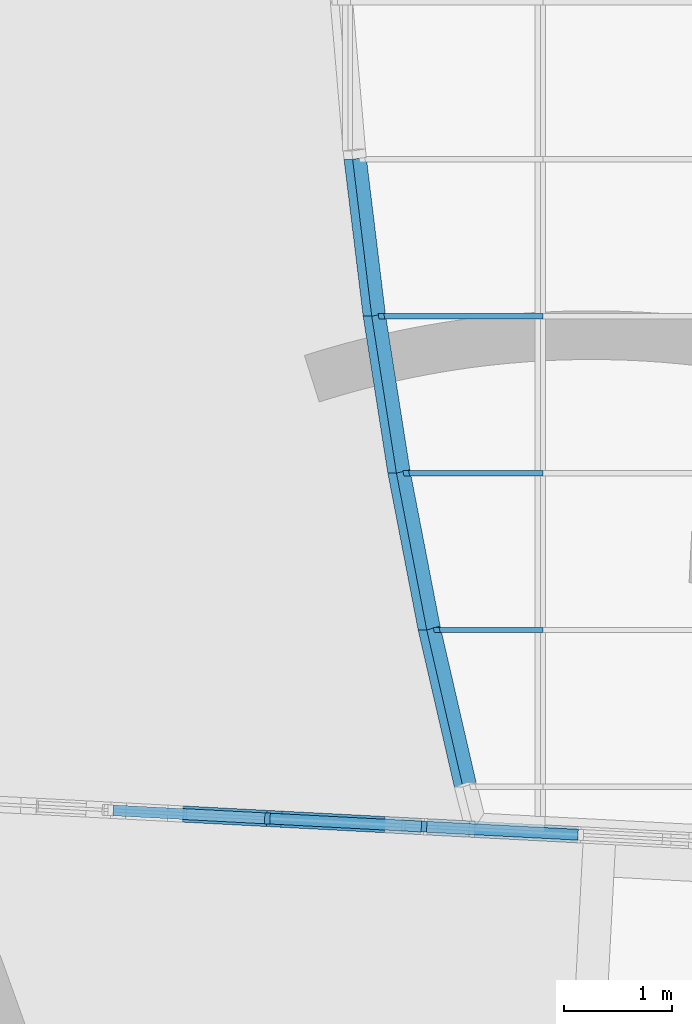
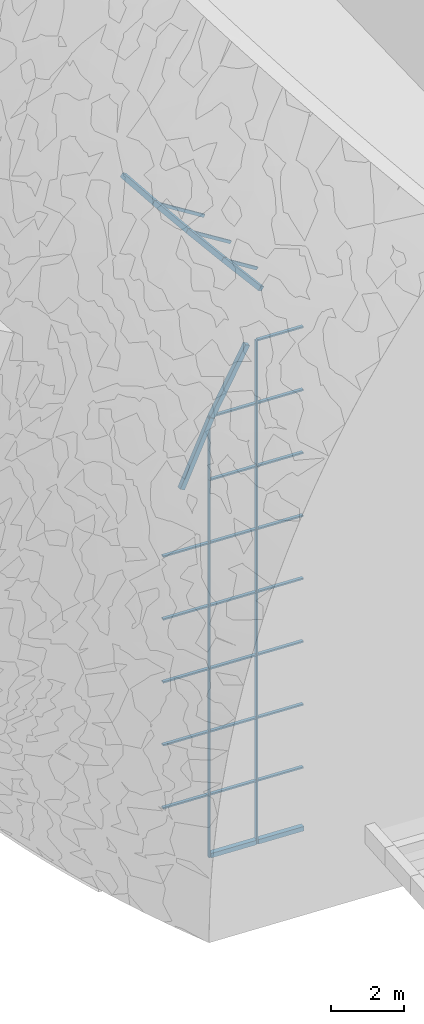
# One storey, part 2 of 82: 46 members, 1 element without a shape of its own.
"""IFC2X3 building model written with IfcOpenShell, lengths in millimetres."""

from ifc_helpers import new_model, entity, si_unit, converted_unit, derived_unit, direction, frame, frame_2d, origin, origin_2d_with_axis, place, context, subcontext, project, spatial, polyline, rectangle, extrude, clip, halfspace, bounded_halfspace, source, transform, mapped, material, type_object, type_shapes, element, aggregate, save


model = new_model("IFC2X3")

# Units and contexts
model_context = context("Model", 3, precision=0.01, world=origin(), true_north=direction((6.12303176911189e-17, 1.0)))
body_context = subcontext(model_context, "Body", "Model", "MODEL_VIEW")
ifc_project = project(units=[si_unit("LENGTHUNIT", "METRE", prefix="MILLI"), si_unit("AREAUNIT", "SQUARE_METRE"), si_unit("VOLUMEUNIT", "CUBIC_METRE"), converted_unit("PLANEANGLEUNIT", "DEGREE", entity("IfcRatioMeasure", 0.0174532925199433), si_unit("PLANEANGLEUNIT", "RADIAN"), dimensions=[0, 0, 0, 0, 0, 0, 0]), si_unit("MASSUNIT", "GRAM", prefix="KILO"), derived_unit("MASSDENSITYUNIT", [(si_unit("MASSUNIT", "GRAM", prefix="KILO"), 1), (si_unit("LENGTHUNIT", "METRE"), -3)]), si_unit("TIMEUNIT", "SECOND"), si_unit("FREQUENCYUNIT", "HERTZ"), si_unit("THERMODYNAMICTEMPERATUREUNIT", "DEGREE_CELSIUS"), derived_unit("THERMALTRANSMITTANCEUNIT", [(si_unit("MASSUNIT", "GRAM", prefix="KILO"), 1), (si_unit("THERMODYNAMICTEMPERATUREUNIT", "KELVIN"), -1), (si_unit("TIMEUNIT", "SECOND"), -3)]), derived_unit("VOLUMETRICFLOWRATEUNIT", [(si_unit("LENGTHUNIT", "METRE"), 3), (si_unit("TIMEUNIT", "SECOND"), -1)]), si_unit("ELECTRICCURRENTUNIT", "AMPERE"), si_unit("ELECTRICVOLTAGEUNIT", "VOLT"), si_unit("POWERUNIT", "WATT"), si_unit("FORCEUNIT", "NEWTON", prefix="KILO"), si_unit("ILLUMINANCEUNIT", "LUX"), si_unit("LUMINOUSFLUXUNIT", "LUMEN"), si_unit("LUMINOUSINTENSITYUNIT", "CANDELA"), derived_unit("USERDEFINED", [(si_unit("MASSUNIT", "GRAM", prefix="KILO"), -1), (si_unit("LENGTHUNIT", "METRE"), -2), (si_unit("TIMEUNIT", "SECOND"), 3), (si_unit("LUMINOUSFLUXUNIT", "LUMEN"), 1)]), derived_unit("LINEARVELOCITYUNIT", [(si_unit("LENGTHUNIT", "METRE"), 1), (si_unit("TIMEUNIT", "SECOND"), -1)]), si_unit("PRESSUREUNIT", "PASCAL"), derived_unit("USERDEFINED", [(si_unit("LENGTHUNIT", "METRE"), -2), (si_unit("MASSUNIT", "GRAM", prefix="KILO"), 1), (si_unit("TIMEUNIT", "SECOND"), -2)])], contexts=[model_context])

# Site, building, storey
site_placement = place(None, origin())
site = spatial("IfcSite", under=ifc_project, at=site_placement, Name="表面", CompositionType="ELEMENT")
building_placement = place(site_placement, origin())
building = spatial("IfcBuilding", under=site, at=building_placement, CompositionType="ELEMENT")
storey_placement = place(building_placement, origin())
storey = spatial("IfcBuildingStorey", under=building, at=storey_placement, Name="1F", CompositionType="ELEMENT", Elevation=0.0)

# Curtain wall, members
curtain_wall_type = type_object("IfcCurtainWallType", Name="幕墙系统:1450 x 2100mm", PredefinedType="NOTDEFINED")
curtain_wall_placement = place(storey_placement, origin())
curtain_wall = element("IfcCurtainWall", 1, at=curtain_wall_placement, inside=storey, type_object=curtain_wall_type, Name="幕墙系统:1450 x 2100mm", ObjectType="幕墙系统:1450 x 2100mm")
ifc_material_1 = material(Name="金属 - 铝")
member_type_1 = type_object("IfcMemberType", Name="50 x 100mm", PredefinedType="MEMBER")
shared_shape_1 = source(origin(), body_context, "Body", "SweptSolid", [
    extrude(rectangle(XDim=100.0, YDim=50.0, at=origin_2d_with_axis()), frame((0.0, 0.0, -1400.0), z_axis=(0.0, 0.0, 1.0), x_axis=(0.0, -1.0, 0.0)), (0.0, 0.0, 1.0), 1400.0),
])
type_shapes(member_type_1, [shared_shape_1])
member_1_placement = place(storey_placement, frame((-28473.6559453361, -28330.8847029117, 2100.0), z_axis=(0.998629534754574, -0.0523359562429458, 0.0), x_axis=(0.0, 0.0, 1.0)))
member_1 = element("IfcMember", 2, at=member_1_placement, type_object=member_type_1, material=ifc_material_1, Name="矩形竖梃:50 x 100mm", ObjectType="50 x 100mm", context=body_context, shape_type="MappedRepresentation", body=[
    mapped(shared_shape_1, transform((0.0, 0.0, 0.0), scale=1.0)),
])
member_2_placement = place(storey_placement, frame((-29921.6687707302, -28254.9975663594, 2100.0), z_axis=(0.998629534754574, -0.0523359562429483, 0.0), x_axis=(0.0, 0.0, 1.0)))
member_2 = element("IfcMember", 3, at=member_2_placement, type_object=member_type_1, material=ifc_material_1, Name="矩形竖梃:50 x 100mm", ObjectType="50 x 100mm", context=body_context, shape_type="MappedRepresentation", body=[
    mapped(shared_shape_1, transform((0.0, 0.0, 0.0), scale=1.0)),
])
member_3_placement = place(storey_placement, frame((-31369.6815961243, -28179.1104298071, 2100.0), z_axis=(0.998629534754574, -0.0523359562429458, 0.0), x_axis=(0.0, 0.0, 1.0)))
member_3 = element("IfcMember", 4, at=member_3_placement, type_object=member_type_1, material=ifc_material_1, Name="矩形竖梃:50 x 100mm", ObjectType="50 x 100mm", context=body_context, shape_type="MappedRepresentation", body=[
    mapped(shared_shape_1, transform((0.0, 0.0, 0.0), scale=1.0)),
])
placement_1 = place(building_placement, frame((0.0, 0.0, 3000.0)))
member_4_placement = place(placement_1, frame((-28473.6559453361, -28330.8847029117, 1200.0), z_axis=(0.998629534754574, -0.0523359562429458, 0.0), x_axis=(0.0, 0.0, 1.0)))
member_4 = element("IfcMember", 5, at=member_4_placement, type_object=member_type_1, material=ifc_material_1, Name="矩形竖梃:50 x 100mm", ObjectType="50 x 100mm", context=body_context, shape_type="MappedRepresentation", body=[
    mapped(shared_shape_1, transform((0.0, 0.0, 0.0), scale=1.0)),
])
member_5_placement = place(placement_1, frame((-29921.6687707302, -28254.9975663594, 1200.0), z_axis=(0.998629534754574, -0.0523359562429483, 0.0), x_axis=(0.0, 0.0, 1.0)))
member_5 = element("IfcMember", 6, at=member_5_placement, type_object=member_type_1, material=ifc_material_1, Name="矩形竖梃:50 x 100mm", ObjectType="50 x 100mm", context=body_context, shape_type="MappedRepresentation", body=[
    mapped(shared_shape_1, transform((0.0, 0.0, 0.0), scale=1.0)),
])
member_6_placement = place(placement_1, frame((-31369.6815961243, -28179.1104298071, 1200.0), z_axis=(0.998629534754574, -0.052335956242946, 0.0), x_axis=(0.0, 0.0, 1.0)))
member_6 = element("IfcMember", 7, at=member_6_placement, type_object=member_type_1, material=ifc_material_1, Name="矩形竖梃:50 x 100mm", ObjectType="50 x 100mm", context=body_context, shape_type="MappedRepresentation", body=[
    mapped(shared_shape_1, transform((0.0, 0.0, 0.0), scale=1.0)),
])
placement_2 = place(building_placement, frame((0.0, 0.0, 6000.0)))
member_7_placement = place(placement_2, frame((-28473.6559453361, -28330.8847029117, 300.0), z_axis=(0.998629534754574, -0.0523359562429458, 0.0), x_axis=(0.0, 0.0, 1.0)))
member_7 = element("IfcMember", 8, at=member_7_placement, type_object=member_type_1, material=ifc_material_1, Name="矩形竖梃:50 x 100mm", ObjectType="50 x 100mm", context=body_context, shape_type="MappedRepresentation", body=[
    mapped(shared_shape_1, transform((0.0, 0.0, 0.0), scale=1.0)),
])
member_8_placement = place(placement_2, frame((-29921.6687707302, -28254.9975663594, 300.0), z_axis=(0.998629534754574, -0.0523359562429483, 0.0), x_axis=(0.0, 0.0, 1.0)))
member_8 = element("IfcMember", 9, at=member_8_placement, type_object=member_type_1, material=ifc_material_1, Name="矩形竖梃:50 x 100mm", ObjectType="50 x 100mm", context=body_context, shape_type="MappedRepresentation", body=[
    mapped(shared_shape_1, transform((0.0, 0.0, 0.0), scale=1.0)),
])
member_9_placement = place(placement_2, frame((-31369.6815961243, -28179.1104298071, 300.0), z_axis=(0.998629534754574, -0.052335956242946, 0.0), x_axis=(0.0, 0.0, 1.0)))
member_9 = element("IfcMember", 10, at=member_9_placement, type_object=member_type_1, material=ifc_material_1, Name="矩形竖梃:50 x 100mm", ObjectType="50 x 100mm", context=body_context, shape_type="MappedRepresentation", body=[
    mapped(shared_shape_1, transform((0.0, 0.0, 0.0), scale=1.0)),
])
member_10_placement = place(placement_2, frame((-28473.6559453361, -28330.8847029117, 2400.0), z_axis=(0.998629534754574, -0.0523359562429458, 0.0), x_axis=(0.0, 0.0, 1.0)))
member_10 = element("IfcMember", 11, at=member_10_placement, type_object=member_type_1, material=ifc_material_1, Name="矩形竖梃:50 x 100mm", ObjectType="50 x 100mm", context=body_context, shape_type="MappedRepresentation", body=[
    mapped(shared_shape_1, transform((0.0, 0.0, 0.0), scale=1.0)),
])
member_11_placement = place(placement_2, frame((-29921.6687707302, -28254.9975663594, 2400.0), z_axis=(0.998629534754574, -0.0523359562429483, 0.0), x_axis=(0.0, 0.0, 1.0)))
member_11 = element("IfcMember", 12, at=member_11_placement, type_object=member_type_1, material=ifc_material_1, Name="矩形竖梃:50 x 100mm", ObjectType="50 x 100mm", context=body_context, shape_type="MappedRepresentation", body=[
    mapped(shared_shape_1, transform((0.0, 0.0, 0.0), scale=1.0)),
])
member_12_placement = place(placement_2, frame((-31369.6815961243, -28179.1104298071, 2400.0), z_axis=(0.998629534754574, -0.052335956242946, 0.0), x_axis=(0.0, 0.0, 1.0)))
member_12 = element("IfcMember", 13, at=member_12_placement, type_object=member_type_1, material=ifc_material_1, Name="矩形竖梃:50 x 100mm", ObjectType="50 x 100mm", context=body_context, shape_type="MappedRepresentation", body=[
    mapped(shared_shape_1, transform((0.0, 0.0, 0.0), scale=1.0)),
])
placement_3 = place(building_placement, frame((0.0, 0.0, 9000.0)))
member_13_placement = place(placement_3, frame((-28473.6559453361, -28330.8847029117, 1500.0), z_axis=(0.998629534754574, -0.0523359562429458, 0.0), x_axis=(0.0, 0.0, 1.0)))
member_13 = element("IfcMember", 14, at=member_13_placement, type_object=member_type_1, material=ifc_material_1, Name="矩形竖梃:50 x 100mm", ObjectType="50 x 100mm", context=body_context, shape_type="MappedRepresentation", body=[
    mapped(shared_shape_1, transform((0.0, 0.0, 0.0), scale=1.0)),
])
member_14_placement = place(placement_3, frame((-29921.6687707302, -28254.9975663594, 1500.0), z_axis=(0.998629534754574, -0.0523359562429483, 0.0), x_axis=(0.0, 0.0, 1.0)))
member_14 = element("IfcMember", 15, at=member_14_placement, type_object=member_type_1, material=ifc_material_1, Name="矩形竖梃:50 x 100mm", ObjectType="50 x 100mm", context=body_context, shape_type="MappedRepresentation", body=[
    mapped(shared_shape_1, transform((0.0, 0.0, 0.0), scale=1.0)),
])
member_15_placement = place(placement_3, frame((-31369.6815961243, -28179.1104298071, 1500.0), z_axis=(0.998629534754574, -0.052335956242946, 0.0), x_axis=(0.0, 0.0, 1.0)))
member_15 = element("IfcMember", 16, at=member_15_placement, type_object=member_type_1, material=ifc_material_1, Name="矩形竖梃:50 x 100mm", ObjectType="50 x 100mm", context=body_context, shape_type="MappedRepresentation", body=[
    mapped(shared_shape_1, transform((0.0, 0.0, 0.0), scale=1.0)),
])
member_16_placement = place(placement_3, frame((-28473.6559453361, -28330.8847029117, 3600.0), z_axis=(0.998629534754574, -0.0523359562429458, 0.0), x_axis=(0.0, 0.0, 1.0)))
member_16 = element("IfcMember", 17, at=member_16_placement, type_object=member_type_1, material=ifc_material_1, Name="矩形竖梃:50 x 100mm", ObjectType="50 x 100mm", context=body_context, shape_type="MappedRepresentation", body=[
    mapped(shared_shape_1, transform((0.0, 0.0, 0.0), scale=1.0)),
])
member_17_placement = place(placement_3, frame((-29921.6687707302, -28254.9975663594, 3600.0), z_axis=(0.998629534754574, -0.0523359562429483, 0.0), x_axis=(0.0, 0.0, 1.0)))
member_17 = element("IfcMember", 18, at=member_17_placement, type_object=member_type_1, material=ifc_material_1, Name="矩形竖梃:50 x 100mm", ObjectType="50 x 100mm", context=body_context, shape_type="MappedRepresentation", body=[
    mapped(shared_shape_1, transform((0.0, 0.0, 0.0), scale=1.0)),
])
member_18_placement = place(placement_3, frame((-28473.6559453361, -28330.8847029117, 5700.0), z_axis=(0.998629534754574, -0.0523359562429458, 0.0), x_axis=(0.0, 0.0, 1.0)))
member_18 = element("IfcMember", 19, at=member_18_placement, type_object=member_type_1, material=ifc_material_1, Name="矩形竖梃:50 x 100mm", ObjectType="50 x 100mm", context=body_context, shape_type="MappedRepresentation", body=[
    mapped(shared_shape_1, transform((0.0, 0.0, 0.0), scale=1.0)),
])
member_19_placement = place(placement_3, frame((-29921.6687707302, -28254.9975663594, 5700.0), z_axis=(0.998629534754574, -0.0523359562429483, 0.0), x_axis=(0.0, 0.0, 1.0)))
member_19 = element("IfcMember", 20, at=member_19_placement, type_object=member_type_1, material=ifc_material_1, Name="矩形竖梃:50 x 100mm", ObjectType="50 x 100mm", context=body_context, shape_type="MappedRepresentation", body=[
    mapped(shared_shape_1, transform((0.0, 0.0, 0.0), scale=1.0)),
])
member_20_placement = place(placement_3, frame((-28473.6559453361, -28330.8847029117, 7800.0), z_axis=(0.998629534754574, -0.0523359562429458, 0.0), x_axis=(0.0, 0.0, 1.0)))
member_20 = element("IfcMember", 21, at=member_20_placement, type_object=member_type_1, material=ifc_material_1, Name="矩形竖梃:50 x 100mm", ObjectType="50 x 100mm", context=body_context, shape_type="MappedRepresentation", body=[
    mapped(shared_shape_1, transform((0.0, 0.0, 0.0), scale=1.0)),
])
member_type_2 = type_object("IfcMemberType", Name="50 x 100mm", PredefinedType="MEMBER")
shared_shape_2 = source(origin(), body_context, "Body", "SweptSolid", [
    extrude(rectangle(XDim=100.0, YDim=50.0, at=origin_2d_with_axis()), frame((0.0, 0.0, -2100.0), z_axis=(0.0, 0.0, 1.0), x_axis=(0.0, -1.0, 0.0)), (0.0, 0.0, 1.0), 2100.0),
])
type_shapes(member_type_2, [shared_shape_2])
member_21_placement = place(storey_placement, frame((-29896.7030323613, -28256.3059652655, 2100.0), z_axis=(0.0, 0.0, 1.0), x_axis=(-0.998629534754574, 0.0523359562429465, 0.0)))
member_21 = element("IfcMember", 22, at=member_21_placement, type_object=member_type_2, material=ifc_material_1, Name="矩形竖梃:50 x 100mm", ObjectType="50 x 100mm", context=body_context, shape_type="MappedRepresentation", body=[
    mapped(shared_shape_2, transform((0.0, 0.0, 0.0), scale=1.0)),
])
member_22_placement = place(storey_placement, frame((-31344.7158577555, -28180.4188287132, 2100.0), z_axis=(0.0, 0.0, 1.0), x_axis=(-0.998629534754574, 0.0523359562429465, 0.0)))
member_22 = element("IfcMember", 23, at=member_22_placement, type_object=member_type_2, material=ifc_material_1, Name="矩形竖梃:50 x 100mm", ObjectType="50 x 100mm", context=body_context, shape_type="MappedRepresentation", body=[
    mapped(shared_shape_2, transform((0.0, 0.0, 0.0), scale=1.0)),
])
member_type_3 = type_object("IfcMemberType", Name="50 x 100mm", PredefinedType="MEMBER")
shared_shape_3 = source(origin(), body_context, "Body", "SweptSolid", [
    extrude(rectangle(XDim=100.0, YDim=50.0, at=origin_2d_with_axis()), frame((0.0, 0.0, -2100.0), z_axis=(0.0, 0.0, 1.0), x_axis=(0.0, -1.0, 0.0)), (0.0, 0.0, 1.0), 2100.0),
])
type_shapes(member_type_3, [shared_shape_3])
member_23_placement = place(storey_placement, frame((-29896.7030323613, -28256.3059652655, 4200.0), z_axis=(0.0, 0.0, 1.0), x_axis=(-0.998629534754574, 0.0523359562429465, 0.0)))
member_23 = element("IfcMember", 24, at=member_23_placement, type_object=member_type_3, material=ifc_material_1, Name="矩形竖梃:50 x 100mm", ObjectType="50 x 100mm", context=body_context, shape_type="MappedRepresentation", body=[
    mapped(shared_shape_3, transform((0.0, 0.0, 0.0), scale=1.0)),
])
member_24_placement = place(storey_placement, frame((-31344.7158577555, -28180.4188287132, 4200.0), z_axis=(0.0, 0.0, 1.0), x_axis=(-0.998629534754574, 0.0523359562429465, 0.0)))
member_24 = element("IfcMember", 25, at=member_24_placement, type_object=member_type_3, material=ifc_material_1, Name="矩形竖梃:50 x 100mm", ObjectType="50 x 100mm", context=body_context, shape_type="MappedRepresentation", body=[
    mapped(shared_shape_3, transform((0.0, 0.0, 0.0), scale=1.0)),
])
member_25_placement = place(placement_1, frame((-29896.7030323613, -28256.3059652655, 3300.0), z_axis=(0.0, 0.0, 1.0), x_axis=(-0.998629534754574, 0.0523359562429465, 0.0)))
member_25 = element("IfcMember", 26, at=member_25_placement, type_object=member_type_3, material=ifc_material_1, Name="矩形竖梃:50 x 100mm", ObjectType="50 x 100mm", context=body_context, shape_type="MappedRepresentation", body=[
    mapped(shared_shape_3, transform((0.0, 0.0, 0.0), scale=1.0)),
])
member_26_placement = place(placement_1, frame((-31344.7158577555, -28180.4188287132, 3300.0), z_axis=(0.0, 0.0, 1.0), x_axis=(-0.998629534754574, 0.0523359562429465, 0.0)))
member_26 = element("IfcMember", 27, at=member_26_placement, type_object=member_type_3, material=ifc_material_1, Name="矩形竖梃:50 x 100mm", ObjectType="50 x 100mm", context=body_context, shape_type="MappedRepresentation", body=[
    mapped(shared_shape_3, transform((0.0, 0.0, 0.0), scale=1.0)),
])
member_27_placement = place(placement_2, frame((-29896.7030323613, -28256.3059652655, 2400.0), z_axis=(0.0, 0.0, 1.0), x_axis=(-0.998629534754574, 0.0523359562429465, 0.0)))
member_27 = element("IfcMember", 28, at=member_27_placement, type_object=member_type_3, material=ifc_material_1, Name="矩形竖梃:50 x 100mm", ObjectType="50 x 100mm", context=body_context, shape_type="MappedRepresentation", body=[
    mapped(shared_shape_3, transform((0.0, 0.0, 0.0), scale=1.0)),
])
member_28_placement = place(placement_2, frame((-31344.7158577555, -28180.4188287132, 2400.0), z_axis=(0.0, 0.0, 1.0), x_axis=(-0.998629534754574, 0.0523359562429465, 0.0)))
member_28 = element("IfcMember", 29, at=member_28_placement, type_object=member_type_3, material=ifc_material_1, Name="矩形竖梃:50 x 100mm", ObjectType="50 x 100mm", context=body_context, shape_type="MappedRepresentation", body=[
    mapped(shared_shape_3, transform((0.0, 0.0, 0.0), scale=1.0)),
])
member_29_placement = place(placement_2, frame((-29896.7030323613, -28256.3059652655, 4500.0), z_axis=(0.0, 0.0, 1.0), x_axis=(-0.998629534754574, 0.0523359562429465, 0.0)))
member_29 = element("IfcMember", 30, at=member_29_placement, type_object=member_type_3, material=ifc_material_1, Name="矩形竖梃:50 x 100mm", ObjectType="50 x 100mm", context=body_context, shape_type="MappedRepresentation", body=[
    mapped(shared_shape_3, transform((0.0, 0.0, 0.0), scale=1.0)),
])
member_30_placement = place(placement_2, frame((-31344.7158577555, -28180.4188287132, 4500.0), z_axis=(0.0, 0.0, 1.0), x_axis=(-0.998629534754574, 0.0523359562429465, 0.0)))
member_30 = element("IfcMember", 31, at=member_30_placement, type_object=member_type_3, material=ifc_material_1, Name="矩形竖梃:50 x 100mm", ObjectType="50 x 100mm", context=body_context, shape_type="MappedRepresentation", body=[
    mapped(shared_shape_3, transform((0.0, 0.0, 0.0), scale=1.0)),
])
member_31_placement = place(placement_3, frame((-29896.7030323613, -28256.3059652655, 3600.0), z_axis=(0.0, 0.0, 1.0), x_axis=(-0.998629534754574, 0.0523359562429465, 0.0)))
member_31 = element("IfcMember", 32, at=member_31_placement, type_object=member_type_3, material=ifc_material_1, Name="矩形竖梃:50 x 100mm", ObjectType="50 x 100mm", context=body_context, shape_type="MappedRepresentation", body=[
    mapped(shared_shape_3, transform((0.0, 0.0, 0.0), scale=1.0)),
])
member_32_placement = place(placement_3, frame((-31344.7158577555, -28180.4188287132, 3600.0), z_axis=(0.0, 0.0, 1.0), x_axis=(-0.998629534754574, 0.0523359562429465, 0.0)))
member_32 = element("IfcMember", 33, at=member_32_placement, type_object=member_type_3, material=ifc_material_1, Name="矩形竖梃:50 x 100mm", ObjectType="50 x 100mm", context=body_context, shape_type="MappedRepresentation", body=[
    mapped(shared_shape_3, transform((0.0, 0.0, 0.0), scale=1.0)),
])
member_33_placement = place(placement_3, frame((-29896.7030323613, -28256.3059652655, 5700.0), z_axis=(0.0, 0.0, 1.0), x_axis=(-0.998629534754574, 0.0523359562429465, 0.0)))
member_33 = element("IfcMember", 34, at=member_33_placement, type_object=member_type_3, material=ifc_material_1, Name="矩形竖梃:50 x 100mm", ObjectType="50 x 100mm", context=body_context, shape_type="MappedRepresentation", body=[
    mapped(shared_shape_3, transform((0.0, 0.0, 0.0), scale=1.0)),
])
member_34_placement = place(placement_3, frame((-29896.7030323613, -28256.3059652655, 7800.0), z_axis=(0.0, 0.0, 1.0), x_axis=(-0.998629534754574, 0.0523359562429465, 0.0)))
member_34 = element("IfcMember", 35, at=member_34_placement, type_object=member_type_3, material=ifc_material_1, Name="矩形竖梃:50 x 100mm", ObjectType="50 x 100mm", context=body_context, shape_type="MappedRepresentation", body=[
    mapped(shared_shape_3, transform((0.0, 0.0, 0.0), scale=1.0)),
])
ifc_material_2 = material(Name="木质 - 木材")
member_type_4 = type_object("IfcMemberType", Name="200 x 150mm", PredefinedType="MEMBER")
shared_shape_4 = source(origin(), body_context, "Body", "SweptSolid", [
    extrude(rectangle(XDim=150.0, YDim=150.0, at=origin_2d_with_axis()), frame((-75.0, 0.0, -1400.0), z_axis=(0.0, 0.0, 1.0), x_axis=(0.0, -1.0, 0.0)), (0.0, 0.0, 1.0), 1400.0),
])
type_shapes(member_type_4, [shared_shape_4])
member_35_placement = place(storey_placement, frame((-29871.7372939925, -28257.6143641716, 0.0), z_axis=(-0.998629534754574, 0.0523359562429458, 0.0), x_axis=(0.0, 0.0, -1.0)))
member_35 = element("IfcMember", 36, at=member_35_placement, type_object=member_type_4, material=ifc_material_2, Name="矩形竖梃:200 x 150mm", ObjectType="200 x 150mm", context=body_context, shape_type="MappedRepresentation", body=[
    mapped(shared_shape_4, transform((0.0, 0.0, 0.0), scale=1.0)),
])
member_36_placement = place(storey_placement, frame((-31319.7501193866, -28181.7272276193, 0.0), z_axis=(-0.998629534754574, 0.0523359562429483, 0.0), x_axis=(0.0, 0.0, -1.0)))
member_36 = element("IfcMember", 37, at=member_36_placement, type_object=member_type_4, material=ifc_material_2, Name="矩形竖梃:200 x 150mm", ObjectType="200 x 150mm", context=body_context, shape_type="MappedRepresentation", body=[
    mapped(shared_shape_4, transform((0.0, 0.0, 0.0), scale=1.0)),
])
member_type_5 = type_object("IfcMemberType", Name="200 x 150mm", PredefinedType="MEMBER")
shared_shape_5 = source(origin(), body_context, "Body", "Clipping", [
    clip(clip(extrude(rectangle(XDim=150.0, YDim=150.0, at=frame_2d((-7.105427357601e-15, 0.0), x_axis=(1.0, 0.0))), frame((-75.0, 0.0, -1464.90108791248), z_axis=(0.0, 0.0, 1.0), x_axis=(0.0, -1.0, 0.0)), (0.0, 0.0, 1.0), 1464.90108791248), halfspace(frame((0.0, -304.8, -1464.90108791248), z_axis=(-0.0202738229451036, 0.0, -0.999794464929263), x_axis=(-0.999794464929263, 0.0, 0.0202738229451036)), False)), halfspace(frame((0.0, -304.8, 0.0), z_axis=(-0.0106372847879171, 0.0, 0.999943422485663), x_axis=(-0.999943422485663, 0.0, -0.0106372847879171)), False)),
])
type_shapes(member_type_5, [shared_shape_5])
member_37_placement = place(placement_3, frame((-30596.5546729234, -22088.9031535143, 9815.04622034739), z_axis=(-0.12065159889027, 0.989827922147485, 0.0753914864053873), x_axis=(-0.839421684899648, -0.142269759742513, 0.524528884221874)))
member_37 = element("IfcMember", 38, at=member_37_placement, type_object=member_type_5, material=ifc_material_2, Name="矩形竖梃:200 x 150mm", ObjectType="200 x 150mm", context=body_context, shape_type="MappedRepresentation", body=[
    mapped(shared_shape_5, transform((0.0, 0.0, 0.0), scale=1.0)),
])
member_type_6 = type_object("IfcMemberType", Name="200 x 150mm", PredefinedType="MEMBER")
shared_shape_6 = source(origin(), body_context, "Body", "Clipping", [
    clip(clip(extrude(rectangle(XDim=150.0, YDim=150.0, at=frame_2d((0.0, -1.4210854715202e-14), x_axis=(1.0, 0.0))), frame((-75.0, 0.0, -1474.70618000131), z_axis=(0.0, 0.0, 1.0), x_axis=(0.0, -1.0, 0.0)), (0.0, 0.0, 1.0), 1474.70618000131), halfspace(frame((0.0, -304.800000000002, -1474.70618000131), z_axis=(-0.0204276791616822, 0.0, -0.999791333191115), x_axis=(-0.999791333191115, 0.0, 0.0204276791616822)), False)), halfspace(frame((0.0, -304.8, 0.0), z_axis=(-0.0202738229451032, 0.0, 0.999794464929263), x_axis=(-0.999794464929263, 0.0, -0.0202738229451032)), False)),
])
type_shapes(member_type_6, [shared_shape_6])
member_38_placement = place(placement_3, frame((-30419.8120144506, -23538.9031535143, 9704.6051498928), z_axis=(-0.15458199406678, 0.983246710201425, 0.0965935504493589), x_axis=(-0.83384050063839, -0.182279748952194, 0.521041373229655)))
member_38 = element("IfcMember", 39, at=member_38_placement, type_object=member_type_6, material=ifc_material_2, Name="矩形竖梃:200 x 150mm", ObjectType="200 x 150mm", context=body_context, shape_type="MappedRepresentation", body=[
    mapped(shared_shape_6, transform((0.0, 0.0, 0.0), scale=1.0)),
])
member_type_7 = type_object("IfcMemberType", Name="200 x 150mm", PredefinedType="MEMBER")
shared_shape_7 = source(origin(), body_context, "Body", "Clipping", [
    clip(clip(extrude(rectangle(XDim=150.0, YDim=150.0, at=frame_2d((-7.105427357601e-15, -1.4210854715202e-14), x_axis=(1.0, 0.0))), frame((-75.0, 0.0, -1487.20913752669), z_axis=(0.0, 0.0, 1.0), x_axis=(0.0, -1.0, 0.0)), (0.0, 0.0, 1.0), 1487.20913752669), halfspace(frame((0.0, -304.8, -1487.20913752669), z_axis=(-0.0206201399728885, 0.0, -0.999787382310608), x_axis=(-0.999787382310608, 0.0, 0.0206201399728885)), False)), halfspace(frame((0.0, -304.8, 0.0), z_axis=(-0.0204276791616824, 0.0, 0.999791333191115), x_axis=(-0.999791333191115, 0.0, -0.0204276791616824)), False)),
])
type_shapes(member_type_7, [shared_shape_7])
member_39_placement = place(placement_3, frame((-30191.8489924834, -24988.9031535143, 9562.15804409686), z_axis=(-0.188512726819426, 0.974980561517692, 0.117795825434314), x_axis=(-0.826830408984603, -0.222290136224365, 0.516660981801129)))
member_39 = element("IfcMember", 40, at=member_39_placement, type_object=member_type_7, material=ifc_material_2, Name="矩形竖梃:200 x 150mm", ObjectType="200 x 150mm", context=body_context, shape_type="MappedRepresentation", body=[
    mapped(shared_shape_7, transform((0.0, 0.0, 0.0), scale=1.0)),
])
member_type_8 = type_object("IfcMemberType", Name="200 x 150mm", PredefinedType="MEMBER")
shared_shape_8 = source(origin(), body_context, "Body", "Clipping", [
    clip(clip(extrude(rectangle(XDim=150.0, YDim=150.0, at=frame_2d((-7.105427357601e-15, 7.105427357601e-14), x_axis=(1.0, 0.0))), frame((-75.0, 0.0, -1502.61231913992), z_axis=(0.0, 0.0, 1.0), x_axis=(0.0, -1.0, 0.0)), (0.0, 0.0, 1.0), 1502.61231913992), halfspace(frame((0.0, -304.8, -1502.61231913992), z_axis=(-0.0131672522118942, 0.0, -0.999913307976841), x_axis=(-0.999913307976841, 0.0, 0.0131672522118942)), False)), halfspace(frame((0.0, -304.8, 0.0), z_axis=(-0.0206201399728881, 0.0, 0.999787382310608), x_axis=(-0.999787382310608, 0.0, -0.0206201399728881)), False)),
])
type_shapes(member_type_8, [shared_shape_8])
member_40_placement = place(placement_3, frame((-29911.4911426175, -26438.9031535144, 9386.97101614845), z_axis=(-0.22244388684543, 0.964986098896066, 0.138998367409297), x_axis=(-0.818354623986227, -0.262301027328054, 0.511364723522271)))
member_40 = element("IfcMember", 41, at=member_40_placement, type_object=member_type_8, material=ifc_material_2, Name="矩形竖梃:200 x 150mm", ObjectType="200 x 150mm", context=body_context, shape_type="MappedRepresentation", body=[
    mapped(shared_shape_8, transform((0.0, 0.0, 0.0), scale=1.0)),
])
member_type_9 = type_object("IfcMemberType", Name="50 x 100mm", PredefinedType="MEMBER")
shared_shape_9 = source(origin(), body_context, "Body", "Clipping", [
    clip(clip(extrude(rectangle(XDim=100.0, YDim=50.0, at=frame_2d((-1.03028696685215e-13, 0.0), x_axis=(1.0, 0.0))), frame((0.0, 0.0, -1882.21328370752), z_axis=(0.0, 0.0, 1.0), x_axis=(0.0, -1.0, 0.0)), (0.0, 0.0, 1.0), 1734.26508712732), bounded_halfspace(frame((-24.3512221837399, 75.0, -148.041446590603), z_axis=(0.182279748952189, 0.0, 0.983246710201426), x_axis=(0.983246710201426, 0.0, -0.182279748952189)), False, frame((0.0, 0.0, -1882.21328370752), z_axis=(0.0, 0.0, 1.0), x_axis=(0.0, -1.0, 0.0)), polyline([(-50.0, 25.0), (-50.0, -24.3512221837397), (50.0, -24.3512221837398), (50.0, 25.0), (-50.0, 25.0)]))), bounded_halfspace(frame((-1471.34046396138, 75.0, 59.9369375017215), z_axis=(0.142269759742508, 0.0, 0.989827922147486), x_axis=(0.989827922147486, 0.0, -0.142269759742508)), False, frame((0.0, 0.0, -1882.21328370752), z_axis=(0.0, 0.0, 1.0), x_axis=(0.0, -1.0, 0.0)), polyline([(-50.0, -24.3512221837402), (-50.0, -25.0), (50.0, -25.0), (50.0, -24.3512221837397), (-50.0, -24.3512221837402)]))),
])
type_shapes(member_type_9, [shared_shape_9])
member_41_placement = place(placement_3, frame((-30419.8120144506, -23538.9031535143, 9704.6051498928), z_axis=(-0.848048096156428, 0.0, 0.529919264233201), x_axis=(0.0, -1.0, 0.0)))
member_41 = element("IfcMember", 42, at=member_41_placement, type_object=member_type_9, material=ifc_material_1, Name="矩形竖梃:50 x 100mm", ObjectType="50 x 100mm", context=body_context, shape_type="MappedRepresentation", body=[
    mapped(shared_shape_9, transform((0.0, 0.0, 0.0), scale=1.0)),
])
member_type_10 = type_object("IfcMemberType", Name="50 x 100mm", PredefinedType="MEMBER")
shared_shape_10 = source(origin(), body_context, "Body", "Clipping", [
    clip(extrude(rectangle(XDim=100.0, YDim=50.0, at=origin_2d_with_axis()), frame((0.0, 0.0, -1613.40421143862), z_axis=(0.0, 0.0, 1.0), x_axis=(0.0, -1.0, 0.0)), (0.0, 0.0, 1.0), 1465.25485103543), halfspace(frame((-30.3554083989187, 75.0, -146.928357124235), z_axis=(0.222290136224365, 0.0, 0.974980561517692), x_axis=(0.974980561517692, 0.0, -0.222290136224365)), False)),
])
type_shapes(member_type_10, [shared_shape_10])
member_42_placement = place(placement_3, frame((-30191.8489924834, -24988.9031535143, 9562.15804409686), z_axis=(-0.848048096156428, 0.0, 0.529919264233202), x_axis=(0.0, -1.0, 0.0)))
member_42 = element("IfcMember", 43, at=member_42_placement, type_object=member_type_10, material=ifc_material_1, Name="矩形竖梃:50 x 100mm", ObjectType="50 x 100mm", context=body_context, shape_type="MappedRepresentation", body=[
    mapped(shared_shape_10, transform((0.0, 0.0, 0.0), scale=1.0)),
])
member_type_11 = type_object("IfcMemberType", Name="50 x 100mm", PredefinedType="MEMBER")
shared_shape_11 = source(origin(), body_context, "Body", "Clipping", [
    clip(extrude(rectangle(XDim=100.0, YDim=50.0, at=origin_2d_with_axis()), frame((0.0, 0.0, -1282.81228966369), z_axis=(0.0, 0.0, 1.0), x_axis=(0.0, -1.0, 0.0)), (0.0, 0.0, 1.0), 1134.16509725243), halfspace(frame((-36.3597970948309, 75.0, -145.559389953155), z_axis=(0.262301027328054, 0.0, 0.964986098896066), x_axis=(0.964986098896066, 0.0, -0.262301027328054)), False)),
])
type_shapes(member_type_11, [shared_shape_11])
member_43_placement = place(placement_3, frame((-29911.4911426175, -26438.9031535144, 9386.97101614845), z_axis=(-0.848048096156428, 0.0, 0.529919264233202), x_axis=(0.0, -1.0, 0.0)))
member_43 = element("IfcMember", 44, at=member_43_placement, type_object=member_type_11, material=ifc_material_1, Name="矩形竖梃:50 x 100mm", ObjectType="50 x 100mm", context=body_context, shape_type="MappedRepresentation", body=[
    mapped(shared_shape_11, transform((0.0, 0.0, 0.0), scale=1.0)),
])
member_type_12 = type_object("IfcMemberType", Name="50 x 100mm", PredefinedType="MEMBER")
shared_shape_12 = source(origin(), body_context, "Body", "SweptSolid", [
    extrude(rectangle(XDim=100.0, YDim=50.0, at=origin_2d_with_axis()), frame((0.0, 0.0, -2125.0), z_axis=(0.0, 0.0, 1.0), x_axis=(0.0, -1.0, 0.0)), (0.0, 0.0, 1.0), 2125.0),
])
type_shapes(member_type_12, [shared_shape_12])
member_44_placement = place(placement_3, frame((-31344.7158577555, -28180.4188287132, 5725.0), z_axis=(0.0, 0.0, 1.0), x_axis=(-0.998629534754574, 0.0523359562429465, 0.0)))
member_44 = element("IfcMember", 45, at=member_44_placement, type_object=member_type_12, material=ifc_material_1, Name="矩形竖梃:50 x 100mm", ObjectType="50 x 100mm", context=body_context, shape_type="MappedRepresentation", body=[
    mapped(shared_shape_12, transform((0.0, 0.0, 0.0), scale=1.0)),
])
member_type_13 = type_object("IfcMemberType", Name="200 x 150mm", PredefinedType="MEMBER")
shared_shape_13 = source(origin(), body_context, "Body", "Clipping", [
    clip(extrude(rectangle(XDim=150.0, YDim=150.0, at=frame_2d((0.0, -1.35003119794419e-13), x_axis=(1.0, 0.0))), frame((-75.0, 0.0, -2291.18348748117), z_axis=(0.0, 0.0, 1.0), x_axis=(0.0, -1.0, 0.0)), (0.0, 0.0, 1.0), 2291.18348748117), halfspace(frame((0.0, -304.799999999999, -2291.18348748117), z_axis=(-0.0278628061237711, 0.0, -0.999611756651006), x_axis=(-0.999611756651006, 0.0, 0.0278628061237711)), False)),
])
type_shapes(member_type_13, [shared_shape_13])
member_45_placement = place(placement_3, frame((-31350.8598551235, -28180.0968354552, 5700.0), z_axis=(0.399356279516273, -0.0209293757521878, 0.916556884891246), x_axis=(-0.915300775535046, 0.0479688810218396, 0.399904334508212)))
member_45 = element("IfcMember", 46, at=member_45_placement, type_object=member_type_13, material=ifc_material_2, Name="矩形竖梃:200 x 150mm", ObjectType="200 x 150mm", context=body_context, shape_type="MappedRepresentation", body=[
    mapped(shared_shape_13, transform((0.0, 0.0, 0.0), scale=1.0)),
])
member_type_14 = type_object("IfcMemberType", Name="200 x 150mm", PredefinedType="MEMBER")
shared_shape_14 = source(origin(), body_context, "Body", "Clipping", [
    clip(extrude(rectangle(XDim=150.0, YDim=150.0, at=frame_2d((-2.8421709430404e-14, 0.0), x_axis=(1.0, 0.0))), frame((-75.0, 0.0, -2352.80222606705), z_axis=(0.0, 0.0, 1.0), x_axis=(0.0, -1.0, 0.0)), (0.0, 0.0, 1.0), 2352.80222606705), halfspace(frame((0.0, -304.799999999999, 0.0), z_axis=(-0.0225394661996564, 0.0, 0.999745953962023), x_axis=(-0.999745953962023, 0.0, -0.0225394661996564)), False)),
])
type_shapes(member_type_14, [shared_shape_14])
member_46_placement = place(placement_3, frame((-30260.0774963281, -28237.2623165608, 7800.0), z_axis=(0.460998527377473, -0.0241599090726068, 0.887071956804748), x_axis=(-0.885856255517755, 0.0464257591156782, 0.461631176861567)))
member_46 = element("IfcMember", 47, at=member_46_placement, type_object=member_type_14, material=ifc_material_2, Name="矩形竖梃:200 x 150mm", ObjectType="200 x 150mm", context=body_context, shape_type="MappedRepresentation", body=[
    mapped(shared_shape_14, transform((0.0, 0.0, 0.0), scale=1.0)),
])
aggregate(curtain_wall, [member_37, member_38, member_39, member_40, member_41, member_42, member_43, member_35, member_36, member_45, member_46, member_1, member_2, member_3, member_4, member_5, member_6, member_7, member_8, member_9, member_10, member_11, member_12, member_13, member_14, member_15, member_16, member_17, member_18, member_19, member_20, member_21, member_22, member_23, member_24, member_25, member_26, member_27, member_28, member_29, member_30, member_31, member_32, member_33, member_44, member_34])

save(model, "model.ifc")
